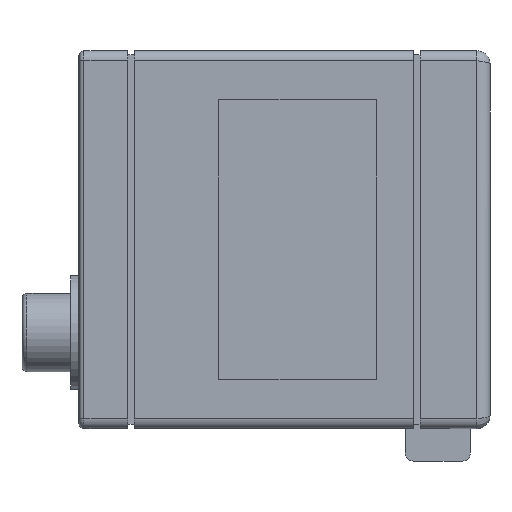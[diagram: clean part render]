
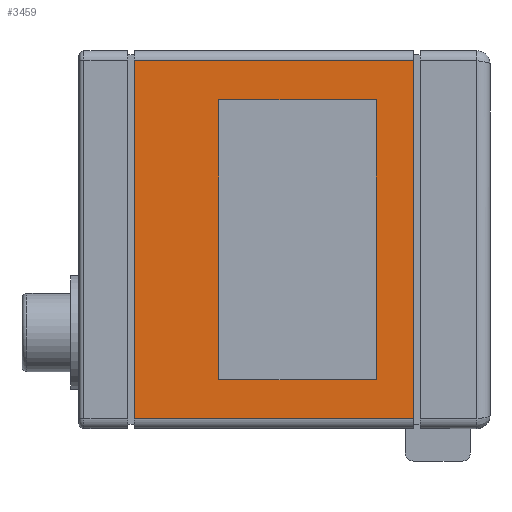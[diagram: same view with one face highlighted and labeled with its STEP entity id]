
A CAD part, front view. The second image highlights one B-rep face of the part: STEP entity #3459.
In plain terms, the highlighted planar face has unit normal (0, -1, 0).
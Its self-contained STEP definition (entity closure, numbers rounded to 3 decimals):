
#959 = PLANE('',#960);
#960 = AXIS2_PLACEMENT_3D('',#961,#962,#963);
#961 = CARTESIAN_POINT('',(-6.9,-7.05,-20.55));
#962 = DIRECTION('',(0.,0.,1.));
#963 = DIRECTION('',(1.,0.,-0.));
#2564 = VERTEX_POINT('',#2565);
#2565 = CARTESIAN_POINT('',(-5.3,-6.05,-20.55));
#2580 = CYLINDRICAL_SURFACE('',#2581,0.6);
#2581 = AXIS2_PLACEMENT_3D('',#2582,#2583,#2584);
#2582 = CARTESIAN_POINT('',(-5.3,-5.45,-25.25));
#2583 = DIRECTION('',(0.,0.,1.));
#2584 = DIRECTION('',(-1.,-0.,0.));
#2592 = EDGE_CURVE('',#2564,#2593,#2595,.T.);
#2593 = VERTEX_POINT('',#2594);
#2594 = CARTESIAN_POINT('',(16.7,-6.05,-20.55));
#2595 = SURFACE_CURVE('',#2596,(#2600,#2606),.PCURVE_S1.);
#2596 = LINE('',#2597,#2598);
#2597 = CARTESIAN_POINT('',(-6.4,-6.05,-20.55));
#2598 = VECTOR('',#2599,1.);
#2599 = DIRECTION('',(1.,0.,-0.));
#2600 = PCURVE('',#959,#2601);
#2601 = DEFINITIONAL_REPRESENTATION('',(#2602),#2605);
#2602 = B_SPLINE_CURVE_WITH_KNOTS('',1,(#2603,#2604),.UNSPECIFIED.,.F.,
  .F.,(2,2),(1.1,23.1),.PIECEWISE_BEZIER_KNOTS.);
#2603 = CARTESIAN_POINT('',(1.6,1.));
#2604 = CARTESIAN_POINT('',(23.6,1.));
#2605 = ( GEOMETRIC_REPRESENTATION_CONTEXT(2) 
PARAMETRIC_REPRESENTATION_CONTEXT() REPRESENTATION_CONTEXT('2D SPACE',''
  ) );
#2606 = PCURVE('',#2607,#2612);
#2607 = PLANE('',#2608);
#2608 = AXIS2_PLACEMENT_3D('',#2609,#2610,#2611);
#2609 = CARTESIAN_POINT('',(-5.9,-6.05,-25.25));
#2610 = DIRECTION('',(-0.,1.,0.));
#2611 = DIRECTION('',(0.,0.,1.));
#2612 = DEFINITIONAL_REPRESENTATION('',(#2613),#2616);
#2613 = B_SPLINE_CURVE_WITH_KNOTS('',1,(#2614,#2615),.UNSPECIFIED.,.F.,
  .F.,(2,2),(1.1,23.1),.PIECEWISE_BEZIER_KNOTS.);
#2614 = CARTESIAN_POINT('',(4.7,0.6));
#2615 = CARTESIAN_POINT('',(4.7,22.6));
#2616 = ( GEOMETRIC_REPRESENTATION_CONTEXT(2) 
PARAMETRIC_REPRESENTATION_CONTEXT() REPRESENTATION_CONTEXT('2D SPACE',''
  ) );
#2635 = CYLINDRICAL_SURFACE('',#2636,0.6);
#2636 = AXIS2_PLACEMENT_3D('',#2637,#2638,#2639);
#2637 = CARTESIAN_POINT('',(16.7,-5.45,-25.25));
#2638 = DIRECTION('',(0.,0.,1.));
#2639 = DIRECTION('',(1.,0.,-0.));
#2785 = PLANE('',#2786);
#2786 = AXIS2_PLACEMENT_3D('',#2787,#2788,#2789);
#2787 = CARTESIAN_POINT('',(-6.9,-7.05,-3.4));
#2788 = DIRECTION('',(0.,0.,1.));
#2789 = DIRECTION('',(1.,0.,-0.));
#3415 = EDGE_CURVE('',#2593,#3416,#3418,.T.);
#3416 = VERTEX_POINT('',#3417);
#3417 = CARTESIAN_POINT('',(16.7,-6.05,-3.4));
#3418 = SURFACE_CURVE('',#3419,(#3423,#3430),.PCURVE_S1.);
#3419 = LINE('',#3420,#3421);
#3420 = CARTESIAN_POINT('',(16.7,-6.05,-25.25));
#3421 = VECTOR('',#3422,1.);
#3422 = DIRECTION('',(0.,0.,1.));
#3423 = PCURVE('',#2635,#3424);
#3424 = DEFINITIONAL_REPRESENTATION('',(#3425),#3429);
#3425 = LINE('',#3426,#3427);
#3426 = CARTESIAN_POINT('',(-1.571,0.));
#3427 = VECTOR('',#3428,1.);
#3428 = DIRECTION('',(-0.,1.));
#3429 = ( GEOMETRIC_REPRESENTATION_CONTEXT(2) 
PARAMETRIC_REPRESENTATION_CONTEXT() REPRESENTATION_CONTEXT('2D SPACE',''
  ) );
#3430 = PCURVE('',#2607,#3431);
#3431 = DEFINITIONAL_REPRESENTATION('',(#3432),#3436);
#3432 = LINE('',#3433,#3434);
#3433 = CARTESIAN_POINT('',(0.,22.6));
#3434 = VECTOR('',#3435,1.);
#3435 = DIRECTION('',(1.,0.));
#3436 = ( GEOMETRIC_REPRESENTATION_CONTEXT(2) 
PARAMETRIC_REPRESENTATION_CONTEXT() REPRESENTATION_CONTEXT('2D SPACE',''
  ) );
#3459 = ADVANCED_FACE('',(#3460,#3506),#2607,.F.);
#3460 = FACE_BOUND('',#3461,.F.);
#3461 = EDGE_LOOP('',(#3462,#3463,#3464,#3487));
#3462 = ORIENTED_EDGE('',*,*,#3415,.F.);
#3463 = ORIENTED_EDGE('',*,*,#2592,.F.);
#3464 = ORIENTED_EDGE('',*,*,#3465,.T.);
#3465 = EDGE_CURVE('',#2564,#3466,#3468,.T.);
#3466 = VERTEX_POINT('',#3467);
#3467 = CARTESIAN_POINT('',(-5.3,-6.05,-3.4));
#3468 = SURFACE_CURVE('',#3469,(#3473,#3480),.PCURVE_S1.);
#3469 = LINE('',#3470,#3471);
#3470 = CARTESIAN_POINT('',(-5.3,-6.05,-25.25));
#3471 = VECTOR('',#3472,1.);
#3472 = DIRECTION('',(0.,0.,1.));
#3473 = PCURVE('',#2607,#3474);
#3474 = DEFINITIONAL_REPRESENTATION('',(#3475),#3479);
#3475 = LINE('',#3476,#3477);
#3476 = CARTESIAN_POINT('',(0.,0.6));
#3477 = VECTOR('',#3478,1.);
#3478 = DIRECTION('',(1.,0.));
#3479 = ( GEOMETRIC_REPRESENTATION_CONTEXT(2) 
PARAMETRIC_REPRESENTATION_CONTEXT() REPRESENTATION_CONTEXT('2D SPACE',''
  ) );
#3480 = PCURVE('',#2580,#3481);
#3481 = DEFINITIONAL_REPRESENTATION('',(#3482),#3486);
#3482 = LINE('',#3483,#3484);
#3483 = CARTESIAN_POINT('',(1.571,0.));
#3484 = VECTOR('',#3485,1.);
#3485 = DIRECTION('',(0.,1.));
#3486 = ( GEOMETRIC_REPRESENTATION_CONTEXT(2) 
PARAMETRIC_REPRESENTATION_CONTEXT() REPRESENTATION_CONTEXT('2D SPACE',''
  ) );
#3487 = ORIENTED_EDGE('',*,*,#3488,.T.);
#3488 = EDGE_CURVE('',#3466,#3416,#3489,.T.);
#3489 = SURFACE_CURVE('',#3490,(#3494,#3500),.PCURVE_S1.);
#3490 = LINE('',#3491,#3492);
#3491 = CARTESIAN_POINT('',(-6.4,-6.05,-3.4));
#3492 = VECTOR('',#3493,1.);
#3493 = DIRECTION('',(1.,0.,-0.));
#3494 = PCURVE('',#2607,#3495);
#3495 = DEFINITIONAL_REPRESENTATION('',(#3496),#3499);
#3496 = B_SPLINE_CURVE_WITH_KNOTS('',1,(#3497,#3498),.UNSPECIFIED.,.F.,
  .F.,(2,2),(1.1,23.1),.PIECEWISE_BEZIER_KNOTS.);
#3497 = CARTESIAN_POINT('',(21.85,0.6));
#3498 = CARTESIAN_POINT('',(21.85,22.6));
#3499 = ( GEOMETRIC_REPRESENTATION_CONTEXT(2) 
PARAMETRIC_REPRESENTATION_CONTEXT() REPRESENTATION_CONTEXT('2D SPACE',''
  ) );
#3500 = PCURVE('',#2785,#3501);
#3501 = DEFINITIONAL_REPRESENTATION('',(#3502),#3505);
#3502 = B_SPLINE_CURVE_WITH_KNOTS('',1,(#3503,#3504),.UNSPECIFIED.,.F.,
  .F.,(2,2),(1.1,23.1),.PIECEWISE_BEZIER_KNOTS.);
#3503 = CARTESIAN_POINT('',(1.6,1.));
#3504 = CARTESIAN_POINT('',(23.6,1.));
#3505 = ( GEOMETRIC_REPRESENTATION_CONTEXT(2) 
PARAMETRIC_REPRESENTATION_CONTEXT() REPRESENTATION_CONTEXT('2D SPACE',''
  ) );
#3506 = FACE_BOUND('',#3507,.F.);
#3507 = EDGE_LOOP('',(#3508,#3536,#3562,#3588));
#3508 = ORIENTED_EDGE('',*,*,#3509,.F.);
#3509 = EDGE_CURVE('',#3510,#3512,#3514,.T.);
#3510 = VERTEX_POINT('',#3511);
#3511 = CARTESIAN_POINT('',(-2.9,-6.05,-8.6));
#3512 = VERTEX_POINT('',#3513);
#3513 = CARTESIAN_POINT('',(14.3,-6.05,-8.6));
#3514 = SURFACE_CURVE('',#3515,(#3519,#3525),.PCURVE_S1.);
#3515 = LINE('',#3516,#3517);
#3516 = CARTESIAN_POINT('',(-4.4,-6.05,-8.6));
#3517 = VECTOR('',#3518,1.);
#3518 = DIRECTION('',(1.,0.,-0.));
#3519 = PCURVE('',#2607,#3520);
#3520 = DEFINITIONAL_REPRESENTATION('',(#3521),#3524);
#3521 = B_SPLINE_CURVE_WITH_KNOTS('',1,(#3522,#3523),.UNSPECIFIED.,.F.,
  .F.,(2,2),(1.5,18.7),.PIECEWISE_BEZIER_KNOTS.);
#3522 = CARTESIAN_POINT('',(16.65,3.));
#3523 = CARTESIAN_POINT('',(16.65,20.2));
#3524 = ( GEOMETRIC_REPRESENTATION_CONTEXT(2) 
PARAMETRIC_REPRESENTATION_CONTEXT() REPRESENTATION_CONTEXT('2D SPACE',''
  ) );
#3525 = PCURVE('',#3526,#3531);
#3526 = PLANE('',#3527);
#3527 = AXIS2_PLACEMENT_3D('',#3528,#3529,#3530);
#3528 = CARTESIAN_POINT('',(-2.9,-7.05,-8.6));
#3529 = DIRECTION('',(0.,0.,1.));
#3530 = DIRECTION('',(1.,0.,-0.));
#3531 = DEFINITIONAL_REPRESENTATION('',(#3532),#3535);
#3532 = B_SPLINE_CURVE_WITH_KNOTS('',1,(#3533,#3534),.UNSPECIFIED.,.F.,
  .F.,(2,2),(1.5,18.7),.PIECEWISE_BEZIER_KNOTS.);
#3533 = CARTESIAN_POINT('',(0.,1.));
#3534 = CARTESIAN_POINT('',(17.2,1.));
#3535 = ( GEOMETRIC_REPRESENTATION_CONTEXT(2) 
PARAMETRIC_REPRESENTATION_CONTEXT() REPRESENTATION_CONTEXT('2D SPACE',''
  ) );
#3536 = ORIENTED_EDGE('',*,*,#3537,.T.);
#3537 = EDGE_CURVE('',#3510,#3538,#3540,.T.);
#3538 = VERTEX_POINT('',#3539);
#3539 = CARTESIAN_POINT('',(-2.9,-6.05,-18.25));
#3540 = SURFACE_CURVE('',#3541,(#3545,#3551),.PCURVE_S1.);
#3541 = LINE('',#3542,#3543);
#3542 = CARTESIAN_POINT('',(-2.9,-6.05,-21.75));
#3543 = VECTOR('',#3544,1.);
#3544 = DIRECTION('',(-0.,0.,-1.));
#3545 = PCURVE('',#2607,#3546);
#3546 = DEFINITIONAL_REPRESENTATION('',(#3547),#3550);
#3547 = B_SPLINE_CURVE_WITH_KNOTS('',1,(#3548,#3549),.UNSPECIFIED.,.F.,
  .F.,(2,2),(-13.15,-3.5),.PIECEWISE_BEZIER_KNOTS.);
#3548 = CARTESIAN_POINT('',(16.65,3.));
#3549 = CARTESIAN_POINT('',(7.,3.));
#3550 = ( GEOMETRIC_REPRESENTATION_CONTEXT(2) 
PARAMETRIC_REPRESENTATION_CONTEXT() REPRESENTATION_CONTEXT('2D SPACE',''
  ) );
#3551 = PCURVE('',#3552,#3557);
#3552 = PLANE('',#3553);
#3553 = AXIS2_PLACEMENT_3D('',#3554,#3555,#3556);
#3554 = CARTESIAN_POINT('',(-2.9,-7.05,-18.25));
#3555 = DIRECTION('',(1.,0.,-0.));
#3556 = DIRECTION('',(0.,0.,1.));
#3557 = DEFINITIONAL_REPRESENTATION('',(#3558),#3561);
#3558 = B_SPLINE_CURVE_WITH_KNOTS('',1,(#3559,#3560),.UNSPECIFIED.,.F.,
  .F.,(2,2),(-13.15,-3.5),.PIECEWISE_BEZIER_KNOTS.);
#3559 = CARTESIAN_POINT('',(9.65,-1.));
#3560 = CARTESIAN_POINT('',(0.,-1.));
#3561 = ( GEOMETRIC_REPRESENTATION_CONTEXT(2) 
PARAMETRIC_REPRESENTATION_CONTEXT() REPRESENTATION_CONTEXT('2D SPACE',''
  ) );
#3562 = ORIENTED_EDGE('',*,*,#3563,.T.);
#3563 = EDGE_CURVE('',#3538,#3564,#3566,.T.);
#3564 = VERTEX_POINT('',#3565);
#3565 = CARTESIAN_POINT('',(14.3,-6.05,-18.25));
#3566 = SURFACE_CURVE('',#3567,(#3571,#3577),.PCURVE_S1.);
#3567 = LINE('',#3568,#3569);
#3568 = CARTESIAN_POINT('',(-4.4,-6.05,-18.25));
#3569 = VECTOR('',#3570,1.);
#3570 = DIRECTION('',(1.,0.,-0.));
#3571 = PCURVE('',#2607,#3572);
#3572 = DEFINITIONAL_REPRESENTATION('',(#3573),#3576);
#3573 = B_SPLINE_CURVE_WITH_KNOTS('',1,(#3574,#3575),.UNSPECIFIED.,.F.,
  .F.,(2,2),(1.5,18.7),.PIECEWISE_BEZIER_KNOTS.);
#3574 = CARTESIAN_POINT('',(7.,3.));
#3575 = CARTESIAN_POINT('',(7.,20.2));
#3576 = ( GEOMETRIC_REPRESENTATION_CONTEXT(2) 
PARAMETRIC_REPRESENTATION_CONTEXT() REPRESENTATION_CONTEXT('2D SPACE',''
  ) );
#3577 = PCURVE('',#3578,#3583);
#3578 = PLANE('',#3579);
#3579 = AXIS2_PLACEMENT_3D('',#3580,#3581,#3582);
#3580 = CARTESIAN_POINT('',(-2.9,-7.05,-18.25));
#3581 = DIRECTION('',(0.,0.,1.));
#3582 = DIRECTION('',(1.,0.,-0.));
#3583 = DEFINITIONAL_REPRESENTATION('',(#3584),#3587);
#3584 = B_SPLINE_CURVE_WITH_KNOTS('',1,(#3585,#3586),.UNSPECIFIED.,.F.,
  .F.,(2,2),(1.5,18.7),.PIECEWISE_BEZIER_KNOTS.);
#3585 = CARTESIAN_POINT('',(0.,1.));
#3586 = CARTESIAN_POINT('',(17.2,1.));
#3587 = ( GEOMETRIC_REPRESENTATION_CONTEXT(2) 
PARAMETRIC_REPRESENTATION_CONTEXT() REPRESENTATION_CONTEXT('2D SPACE',''
  ) );
#3588 = ORIENTED_EDGE('',*,*,#3589,.F.);
#3589 = EDGE_CURVE('',#3512,#3564,#3590,.T.);
#3590 = SURFACE_CURVE('',#3591,(#3595,#3601),.PCURVE_S1.);
#3591 = LINE('',#3592,#3593);
#3592 = CARTESIAN_POINT('',(14.3,-6.05,-21.75));
#3593 = VECTOR('',#3594,1.);
#3594 = DIRECTION('',(-0.,0.,-1.));
#3595 = PCURVE('',#2607,#3596);
#3596 = DEFINITIONAL_REPRESENTATION('',(#3597),#3600);
#3597 = B_SPLINE_CURVE_WITH_KNOTS('',1,(#3598,#3599),.UNSPECIFIED.,.F.,
  .F.,(2,2),(-13.15,-3.5),.PIECEWISE_BEZIER_KNOTS.);
#3598 = CARTESIAN_POINT('',(16.65,20.2));
#3599 = CARTESIAN_POINT('',(7.,20.2));
#3600 = ( GEOMETRIC_REPRESENTATION_CONTEXT(2) 
PARAMETRIC_REPRESENTATION_CONTEXT() REPRESENTATION_CONTEXT('2D SPACE',''
  ) );
#3601 = PCURVE('',#3602,#3607);
#3602 = PLANE('',#3603);
#3603 = AXIS2_PLACEMENT_3D('',#3604,#3605,#3606);
#3604 = CARTESIAN_POINT('',(14.3,-7.05,-18.25));
#3605 = DIRECTION('',(1.,0.,-0.));
#3606 = DIRECTION('',(0.,0.,1.));
#3607 = DEFINITIONAL_REPRESENTATION('',(#3608),#3611);
#3608 = B_SPLINE_CURVE_WITH_KNOTS('',1,(#3609,#3610),.UNSPECIFIED.,.F.,
  .F.,(2,2),(-13.15,-3.5),.PIECEWISE_BEZIER_KNOTS.);
#3609 = CARTESIAN_POINT('',(9.65,-1.));
#3610 = CARTESIAN_POINT('',(0.,-1.));
#3611 = ( GEOMETRIC_REPRESENTATION_CONTEXT(2) 
PARAMETRIC_REPRESENTATION_CONTEXT() REPRESENTATION_CONTEXT('2D SPACE',''
  ) );
